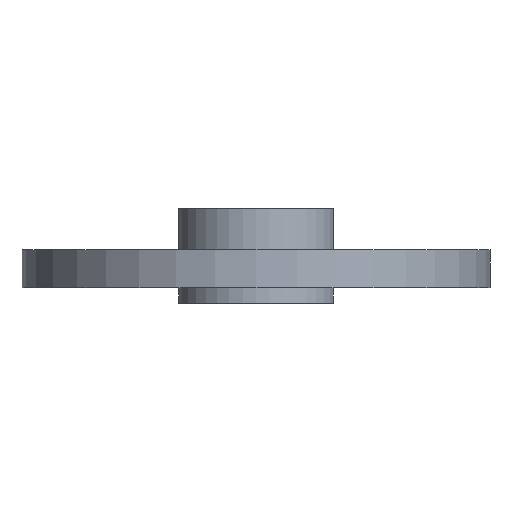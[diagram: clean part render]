
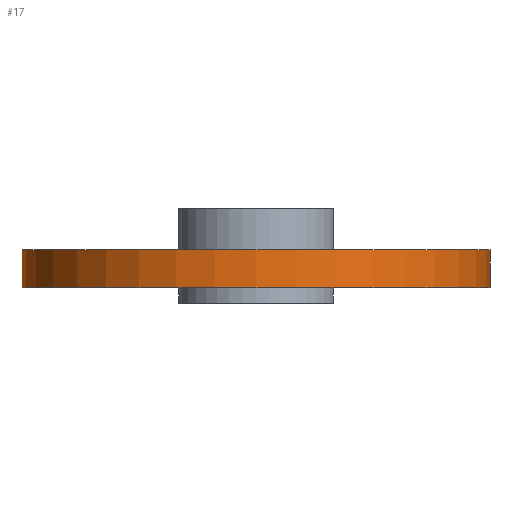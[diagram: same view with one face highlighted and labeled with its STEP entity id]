
A CAD part, front view. The second image highlights one B-rep face of the part: STEP entity #17.
In plain terms, the highlighted cylindrical face has radius 7.4 mm (diameter 14.8 mm), a full revolution.
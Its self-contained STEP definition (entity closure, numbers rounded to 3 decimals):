
#17 = ADVANCED_FACE('',(#18),#31,.T.);
#18 = FACE_BOUND('',#19,.T.);
#19 = EDGE_LOOP('',(#20,#54,#77,#104));
#20 = ORIENTED_EDGE('',*,*,#21,.F.);
#21 = EDGE_CURVE('',#22,#22,#24,.T.);
#22 = VERTEX_POINT('',#23);
#23 = CARTESIAN_POINT('',(7.4,0.,-1.));
#24 = SURFACE_CURVE('',#25,(#30,#42),.PCURVE_S1.);
#25 = CIRCLE('',#26,7.4);
#26 = AXIS2_PLACEMENT_3D('',#27,#28,#29);
#27 = CARTESIAN_POINT('',(0.,0.,-1.));
#28 = DIRECTION('',(0.,0.,1.));
#29 = DIRECTION('',(1.,0.,-0.));
#30 = PCURVE('',#31,#36);
#31 = CYLINDRICAL_SURFACE('',#32,7.4);
#32 = AXIS2_PLACEMENT_3D('',#33,#34,#35);
#33 = CARTESIAN_POINT('',(0.,0.,-2.2));
#34 = DIRECTION('',(0.,0.,1.));
#35 = DIRECTION('',(1.,0.,-0.));
#36 = DEFINITIONAL_REPRESENTATION('',(#37),#41);
#37 = LINE('',#38,#39);
#38 = CARTESIAN_POINT('',(0.,1.2));
#39 = VECTOR('',#40,1.);
#40 = DIRECTION('',(1.,0.));
#41 = ( GEOMETRIC_REPRESENTATION_CONTEXT(2) 
PARAMETRIC_REPRESENTATION_CONTEXT() REPRESENTATION_CONTEXT('2D SPACE',''
  ) );
#42 = PCURVE('',#43,#48);
#43 = PLANE('',#44);
#44 = AXIS2_PLACEMENT_3D('',#45,#46,#47);
#45 = CARTESIAN_POINT('',(0.,0.,-1.));
#46 = DIRECTION('',(0.,0.,1.));
#47 = DIRECTION('',(1.,0.,-0.));
#48 = DEFINITIONAL_REPRESENTATION('',(#49),#53);
#49 = CIRCLE('',#50,7.4);
#50 = AXIS2_PLACEMENT_2D('',#51,#52);
#51 = CARTESIAN_POINT('',(0.,0.));
#52 = DIRECTION('',(1.,0.));
#53 = ( GEOMETRIC_REPRESENTATION_CONTEXT(2) 
PARAMETRIC_REPRESENTATION_CONTEXT() REPRESENTATION_CONTEXT('2D SPACE',''
  ) );
#54 = ORIENTED_EDGE('',*,*,#55,.F.);
#55 = EDGE_CURVE('',#56,#22,#58,.T.);
#56 = VERTEX_POINT('',#57);
#57 = CARTESIAN_POINT('',(7.4,0.,-2.2));
#58 = SEAM_CURVE('',#59,(#63,#70),.PCURVE_S1.);
#59 = LINE('',#60,#61);
#60 = CARTESIAN_POINT('',(7.4,0.,-2.2));
#61 = VECTOR('',#62,1.);
#62 = DIRECTION('',(0.,0.,1.));
#63 = PCURVE('',#31,#64);
#64 = DEFINITIONAL_REPRESENTATION('',(#65),#69);
#65 = LINE('',#66,#67);
#66 = CARTESIAN_POINT('',(6.283,-0.));
#67 = VECTOR('',#68,1.);
#68 = DIRECTION('',(0.,1.));
#69 = ( GEOMETRIC_REPRESENTATION_CONTEXT(2) 
PARAMETRIC_REPRESENTATION_CONTEXT() REPRESENTATION_CONTEXT('2D SPACE',''
  ) );
#70 = PCURVE('',#31,#71);
#71 = DEFINITIONAL_REPRESENTATION('',(#72),#76);
#72 = LINE('',#73,#74);
#73 = CARTESIAN_POINT('',(0.,-0.));
#74 = VECTOR('',#75,1.);
#75 = DIRECTION('',(0.,1.));
#76 = ( GEOMETRIC_REPRESENTATION_CONTEXT(2) 
PARAMETRIC_REPRESENTATION_CONTEXT() REPRESENTATION_CONTEXT('2D SPACE',''
  ) );
#77 = ORIENTED_EDGE('',*,*,#78,.T.);
#78 = EDGE_CURVE('',#56,#56,#79,.T.);
#79 = SURFACE_CURVE('',#80,(#85,#92),.PCURVE_S1.);
#80 = CIRCLE('',#81,7.4);
#81 = AXIS2_PLACEMENT_3D('',#82,#83,#84);
#82 = CARTESIAN_POINT('',(0.,0.,-2.2));
#83 = DIRECTION('',(0.,0.,1.));
#84 = DIRECTION('',(1.,0.,-0.));
#85 = PCURVE('',#31,#86);
#86 = DEFINITIONAL_REPRESENTATION('',(#87),#91);
#87 = LINE('',#88,#89);
#88 = CARTESIAN_POINT('',(0.,0.));
#89 = VECTOR('',#90,1.);
#90 = DIRECTION('',(1.,0.));
#91 = ( GEOMETRIC_REPRESENTATION_CONTEXT(2) 
PARAMETRIC_REPRESENTATION_CONTEXT() REPRESENTATION_CONTEXT('2D SPACE',''
  ) );
#92 = PCURVE('',#93,#98);
#93 = PLANE('',#94);
#94 = AXIS2_PLACEMENT_3D('',#95,#96,#97);
#95 = CARTESIAN_POINT('',(0.,0.,-2.2));
#96 = DIRECTION('',(0.,0.,1.));
#97 = DIRECTION('',(1.,0.,-0.));
#98 = DEFINITIONAL_REPRESENTATION('',(#99),#103);
#99 = CIRCLE('',#100,7.4);
#100 = AXIS2_PLACEMENT_2D('',#101,#102);
#101 = CARTESIAN_POINT('',(0.,0.));
#102 = DIRECTION('',(1.,0.));
#103 = ( GEOMETRIC_REPRESENTATION_CONTEXT(2) 
PARAMETRIC_REPRESENTATION_CONTEXT() REPRESENTATION_CONTEXT('2D SPACE',''
  ) );
#104 = ORIENTED_EDGE('',*,*,#55,.T.);
